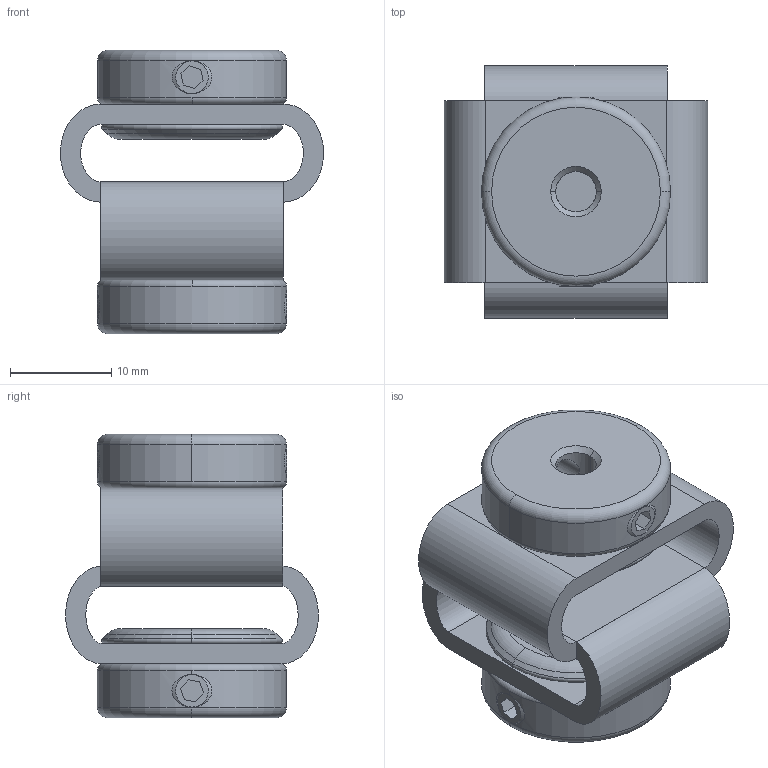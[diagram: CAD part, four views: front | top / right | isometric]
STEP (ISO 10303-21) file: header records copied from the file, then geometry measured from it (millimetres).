
FILE_DESCRIPTION (( 'STEP AP203' ), '1' );
FILE_NAME ('SFC-29-4X8_203.STEP', '2013-06-02T09:22:47', ( 'Z77' ), ( '' ), 'SwSTEP 2.0', 'SolidWorks 2012', '' );
FILE_SCHEMA (( 'CONFIG_CONTROL_DESIGN' ));
Length unit declared in the file: millimetre
Products named in the file (1): SFC-29-4X8_203
Bounding box: 26.02 x 24.99 x 28 mm (x, y, z)
Volume: 6318.7 mm3; surface area: 4936 mm2
Topology: 1 solids, 1 shells, 134 faces, 335 edges, 205 vertices
Faces by surface type: plane 46, cone 36, cylinder 28, torus 16, bspline 8
Entity records: 4895 total; most frequent: CARTESIAN_POINT 1673, ORIENTED_EDGE 654, DIRECTION 650, EDGE_CURVE 327, AXIS2_PLACEMENT_3D 244, VERTEX_POINT 205, VECTOR 162, LINE 162
